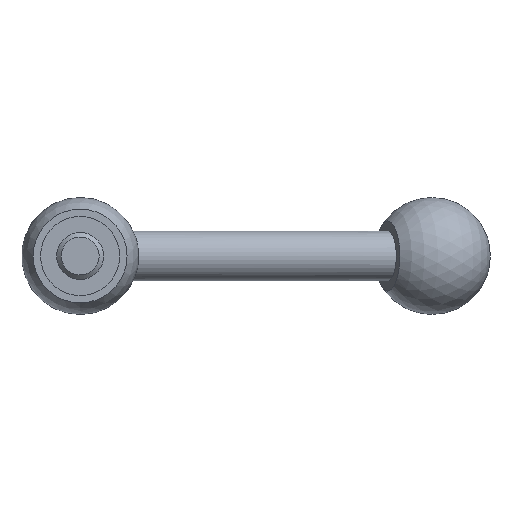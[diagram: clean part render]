
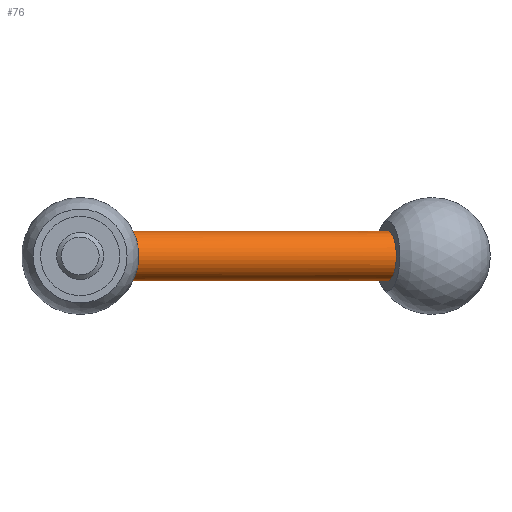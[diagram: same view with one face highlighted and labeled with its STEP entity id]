
A CAD part, front view. The second image highlights one B-rep face of the part: STEP entity #76.
In plain terms, the highlighted cylindrical face has radius 4.25 mm (diameter 8.5 mm), a full revolution.
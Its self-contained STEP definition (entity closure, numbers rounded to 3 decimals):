
#76 = ADVANCED_FACE( '', ( #92, #93 ), #94, .T. );
#92 = FACE_OUTER_BOUND( '', #130, .T. );
#93 = FACE_OUTER_BOUND( '', #131, .T. );
#94 = CYLINDRICAL_SURFACE( '', #132, 4.25 );
#130 = EDGE_LOOP( '', ( #170 ) );
#131 = EDGE_LOOP( '', ( #171 ) );
#132 = AXIS2_PLACEMENT_3D( '', #172, #173, #174 );
#170 = ORIENTED_EDGE( '', *, *, #230, .F. );
#171 = ORIENTED_EDGE( '', *, *, #231, .F. );
#172 = CARTESIAN_POINT( '', ( 69.397, 39.42, 0. ) );
#173 = DIRECTION( '', ( -0.94, -0.342, 0. ) );
#174 = DIRECTION( '', ( -0.342, 0.94, 0. ) );
#230 = EDGE_CURVE( '', #244, #244, #245, .T. );
#231 = EDGE_CURVE( '', #246, #246, #247, .T. );
#244 = VERTEX_POINT( '', #268 );
#245 = CIRCLE( '', #269, 4.25 );
#246 = VERTEX_POINT( '', #270 );
#247 = B_SPLINE_CURVE_WITH_KNOTS( '', 3, ( #271, #272, #273, #274, #275, #276, #277, #278, #279, #280, #281, #282, #283, #284, #285, #286, #287, #288, #289, #290, #291, #292, #293, #294, #295, #296, #297, #298, #299, #300, #301, #302, #303, #304, #305, #306, #307, #308, #309, #310, #311, #312, #313, #314, #315, #316, #317, #318, #319, #320, #321, #322, #323, #324, #325, #326, #327, #328, #329, #330, #331, #332, #333, #334, #335, #336 ), .UNSPECIFIED., .T., .F., ( 2, 2, 2, 2, 2, 2, 2, 2, 2, 2, 2, 2, 2, 2, 2, 2, 2, 2, 2, 2, 2, 2, 2, 2, 2, 2, 2, 2, 2, 2, 2, 2, 2, 2, 2 ), ( -0.001, 0., 0.001, 0.002, 0.002, 0.003, 0.004, 0.005, 0.006, 0.007, 0.007, 0.008, 0.009, 0.01, 0.011, 0.012, 0.012, 0.013, 0.014, 0.015, 0.016, 0.017, 0.017, 0.018, 0.019, 0.02, 0.021, 0.022, 0.022, 0.023, 0.024, 0.025, 0.026, 0.027, 0.027 ), .UNSPECIFIED. );
#268 = CARTESIAN_POINT( '', ( 51.029, 37.258, 0. ) );
#269 = AXIS2_PLACEMENT_3D( '', #358, #359, #360 );
#270 = CARTESIAN_POINT( '', ( 9.64, 14.14, -2.657 ) );
#271 = CARTESIAN_POINT( '', ( 9.577, 14.304, -2.876 ) );
#272 = CARTESIAN_POINT( '', ( 9.702, 13.976, -2.438 ) );
#273 = CARTESIAN_POINT( '', ( 9.756, 13.835, -2.205 ) );
#274 = CARTESIAN_POINT( '', ( 9.848, 13.597, -1.713 ) );
#275 = CARTESIAN_POINT( '', ( 9.885, 13.499, -1.452 ) );
#276 = CARTESIAN_POINT( '', ( 9.941, 13.354, -0.916 ) );
#277 = CARTESIAN_POINT( '', ( 9.959, 13.306, -0.644 ) );
#278 = CARTESIAN_POINT( '', ( 9.976, 13.261, -0.091 ) );
#279 = CARTESIAN_POINT( '', ( 9.975, 13.265, 0.192 ) );
#280 = CARTESIAN_POINT( '', ( 9.953, 13.322, 0.743 ) );
#281 = CARTESIAN_POINT( '', ( 9.933, 13.375, 1.014 ) );
#282 = CARTESIAN_POINT( '', ( 9.872, 13.532, 1.547 ) );
#283 = CARTESIAN_POINT( '', ( 9.833, 13.635, 1.805 ) );
#284 = CARTESIAN_POINT( '', ( 9.737, 13.885, 2.29 ) );
#285 = CARTESIAN_POINT( '', ( 9.681, 14.032, 2.521 ) );
#286 = CARTESIAN_POINT( '', ( 9.552, 14.368, 2.949 ) );
#287 = CARTESIAN_POINT( '', ( 9.481, 14.554, 3.143 ) );
#288 = CARTESIAN_POINT( '', ( 9.326, 14.958, 3.489 ) );
#289 = CARTESIAN_POINT( '', ( 9.242, 15.179, 3.644 ) );
#290 = CARTESIAN_POINT( '', ( 9.065, 15.64, 3.9 ) );
#291 = CARTESIAN_POINT( '', ( 8.973, 15.88, 4.003 ) );
#292 = CARTESIAN_POINT( '', ( 8.782, 16.379, 4.158 ) );
#293 = CARTESIAN_POINT( '', ( 8.683, 16.638, 4.21 ) );
#294 = CARTESIAN_POINT( '', ( 8.485, 17.153, 4.258 ) );
#295 = CARTESIAN_POINT( '', ( 8.386, 17.412, 4.255 ) );
#296 = CARTESIAN_POINT( '', ( 8.187, 17.933, 4.194 ) );
#297 = CARTESIAN_POINT( '', ( 8.089, 18.187, 4.136 ) );
#298 = CARTESIAN_POINT( '', ( 7.9, 18.68, 3.969 ) );
#299 = CARTESIAN_POINT( '', ( 7.808, 18.922, 3.859 ) );
#300 = CARTESIAN_POINT( '', ( 7.633, 19.378, 3.59 ) );
#301 = CARTESIAN_POINT( '', ( 7.551, 19.592, 3.434 ) );
#302 = CARTESIAN_POINT( '', ( 7.399, 19.989, 3.077 ) );
#303 = CARTESIAN_POINT( '', ( 7.328, 20.174, 2.874 ) );
#304 = CARTESIAN_POINT( '', ( 7.204, 20.498, 2.441 ) );
#305 = CARTESIAN_POINT( '', ( 7.15, 20.639, 2.21 ) );
#306 = CARTESIAN_POINT( '', ( 7.058, 20.88, 1.714 ) );
#307 = CARTESIAN_POINT( '', ( 7.02, 20.977, 1.453 ) );
#308 = CARTESIAN_POINT( '', ( 6.965, 21.122, 0.922 ) );
#309 = CARTESIAN_POINT( '', ( 6.946, 21.17, 0.647 ) );
#310 = CARTESIAN_POINT( '', ( 6.929, 21.215, 0.089 ) );
#311 = CARTESIAN_POINT( '', ( 6.93, 21.212, -0.188 ) );
#312 = CARTESIAN_POINT( '', ( 6.952, 21.156, -0.739 ) );
#313 = CARTESIAN_POINT( '', ( 6.973, 21.101, -1.015 ) );
#314 = CARTESIAN_POINT( '', ( 7.033, 20.945, -1.546 ) );
#315 = CARTESIAN_POINT( '', ( 7.071, 20.843, -1.8 ) );
#316 = CARTESIAN_POINT( '', ( 7.167, 20.593, -2.288 ) );
#317 = CARTESIAN_POINT( '', ( 7.224, 20.444, -2.521 ) );
#318 = CARTESIAN_POINT( '', ( 7.352, 20.112, -2.945 ) );
#319 = CARTESIAN_POINT( '', ( 7.423, 19.927, -3.139 ) );
#320 = CARTESIAN_POINT( '', ( 7.579, 19.518, -3.49 ) );
#321 = CARTESIAN_POINT( '', ( 7.663, 19.3, -3.642 ) );
#322 = CARTESIAN_POINT( '', ( 7.839, 18.842, -3.898 ) );
#323 = CARTESIAN_POINT( '', ( 7.932, 18.598, -4.003 ) );
#324 = CARTESIAN_POINT( '', ( 8.124, 18.098, -4.159 ) );
#325 = CARTESIAN_POINT( '', ( 8.221, 17.843, -4.209 ) );
#326 = CARTESIAN_POINT( '', ( 8.419, 17.327, -4.258 ) );
#327 = CARTESIAN_POINT( '', ( 8.52, 17.063, -4.255 ) );
#328 = CARTESIAN_POINT( '', ( 8.717, 16.548, -4.194 ) );
#329 = CARTESIAN_POINT( '', ( 8.814, 16.294, -4.138 ) );
#330 = CARTESIAN_POINT( '', ( 9.005, 15.797, -3.97 ) );
#331 = CARTESIAN_POINT( '', ( 9.097, 15.556, -3.859 ) );
#332 = CARTESIAN_POINT( '', ( 9.271, 15.103, -3.593 ) );
#333 = CARTESIAN_POINT( '', ( 9.353, 14.888, -3.436 ) );
#334 = CARTESIAN_POINT( '', ( 9.507, 14.486, -3.076 ) );
#335 = CARTESIAN_POINT( '', ( 9.577, 14.304, -2.876 ) );
#336 = CARTESIAN_POINT( '', ( 9.702, 13.976, -2.438 ) );
#358 = CARTESIAN_POINT( '', ( 52.482, 33.264, 0. ) );
#359 = DIRECTION( '', ( 0.94, 0.342, 0. ) );
#360 = DIRECTION( '', ( -0.342, 0.94, 0. ) );
